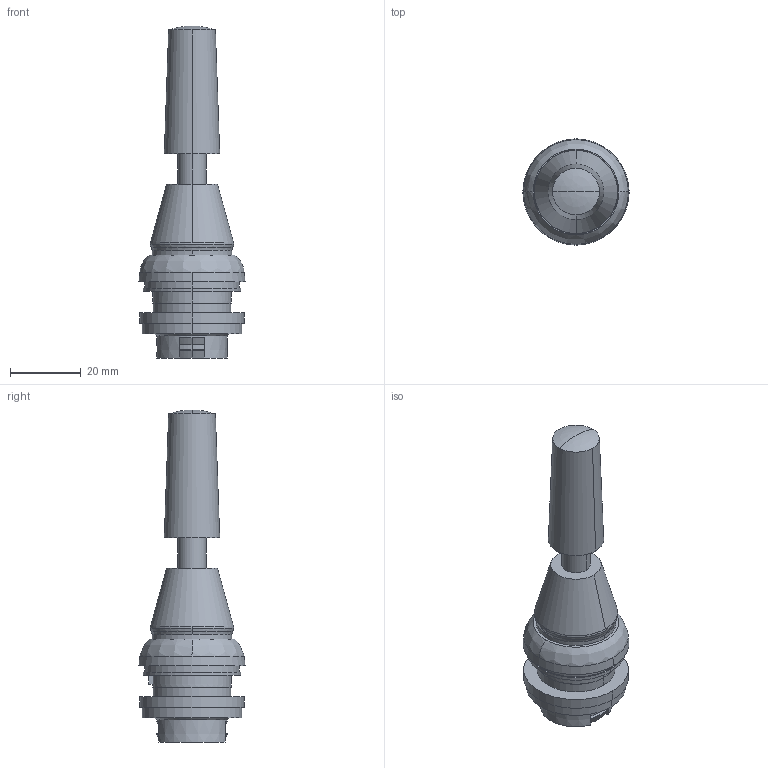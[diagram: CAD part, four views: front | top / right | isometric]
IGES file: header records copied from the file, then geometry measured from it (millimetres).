
Start section: Data from XPlus IGES,  Spatial Corp. Copyright (c) 1999-2004
Global section: file name: 111508.igs; native system:  By Spatial Corp.; preprocessor: XPlus ACIS/IGES 3.0; author: Noname; organization: Noname; date: 20120529.222911; units: millimetre
Bounding box: 30 x 30 x 93.8 mm (x, y, z)
Surface area: 7282.6 mm2 (no closed solid volume)
Topology: 0 solids, 0 shells, 74 faces, 356 edges, 354 vertices
Faces by surface type: revolution 48, extrusion 26
